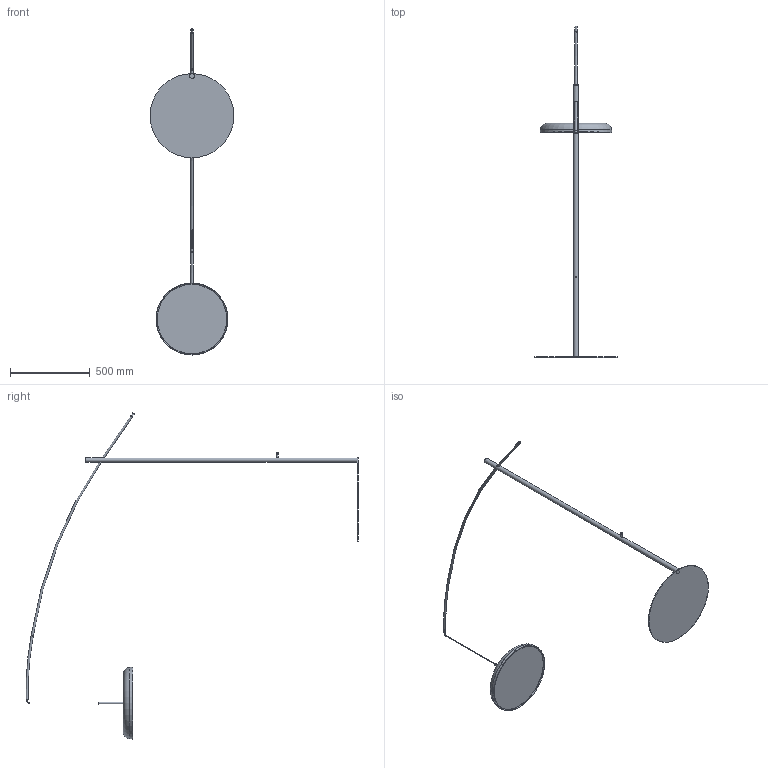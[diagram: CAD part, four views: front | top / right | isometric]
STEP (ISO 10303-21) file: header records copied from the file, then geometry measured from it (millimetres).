
FILE_DESCRIPTION(/* description */ (''),/* implementation_level */ '2;1');
FILE_NAME(/* name */ 'C:\Users\msina\Desktop\LCItalia\PER RENDER\PER SITO\zero 11.stp',/* time_stamp */ '2022-10-06T17:26:40+02:00',/* author */ ('msina'),/* organization */ (''),/* preprocessor_version */ 'ST-DEVELOPER v18',/* originating_system */ 'Autodesk Inventor 2020',/* authorisation */ '');
FILE_SCHEMA (('AUTOMOTIVE_DESIGN { 1 0 10303 214 3 1 1 }'));
Length unit declared in the file: millimetre
Products named in the file (1): zero 11 per render
Bounding box: 525 x 2075.5 x 2038.57 mm (x, y, z)
Volume: 2939148.5 mm3; surface area: 1454214.4 mm2
Topology: 10 solids, 10 shells, 68 faces, 162 edges, 125 vertices
Faces by surface type: plane 27, cylinder 21, torus 11, cone 5, bspline 4
Full cylindrical faces by diameter (mm): 5 x2, 6 x3, 8 x1, 10 x1, 13 x4, 30 x2, 53 x1, 55 x1, 57 x1, 434.592 x1, 525 x1
Entity records: 2959 total; most frequent: CARTESIAN_POINT 1226, DIRECTION 387, ORIENTED_EDGE 312, AXIS2_PLACEMENT_3D 179, EDGE_CURVE 156, CIRCLE 113, VERTEX_POINT 113, EDGE_LOOP 77
